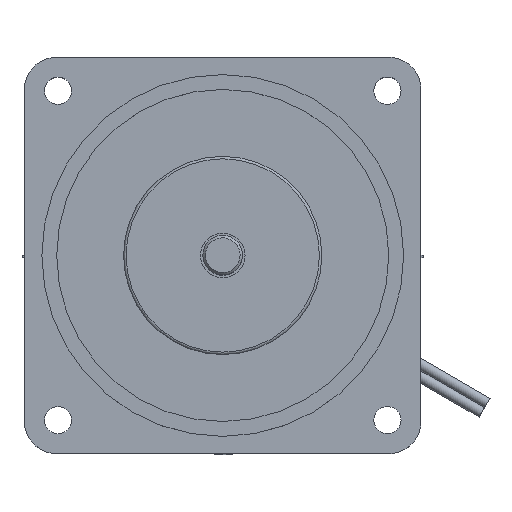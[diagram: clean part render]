
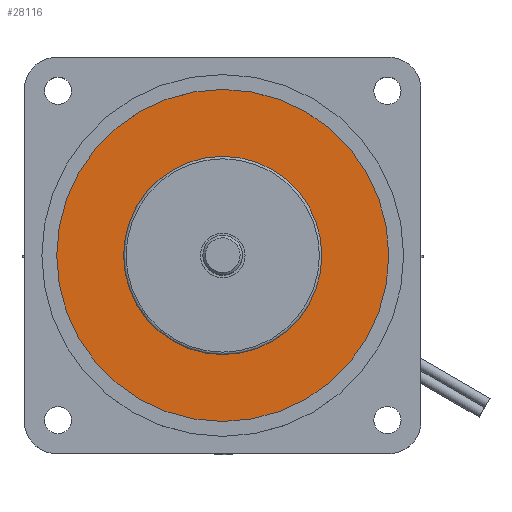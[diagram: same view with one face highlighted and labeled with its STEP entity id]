
A CAD part, top view. The second image highlights one B-rep face of the part: STEP entity #28116.
In plain terms, the highlighted planar face has unit normal (0, 0, 1).
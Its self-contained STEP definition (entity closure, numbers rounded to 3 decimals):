
#27791=CARTESIAN_POINT('',(20.0,0.,5.5));
#27792=VERTEX_POINT('',#27791);
#27793=CARTESIAN_POINT('',(0.0,0.0,5.5));
#27794=DIRECTION('',(0.0,0.0,1.0));
#27795=DIRECTION('',(-1.0,0.0,0.0));
#27796=AXIS2_PLACEMENT_3D('',#27793,#27794,#27795);
#27797=CIRCLE('',#27796,20.0);
#27798=EDGE_CURVE('',#27792,#27792,#27797,.T.);
#28082=CARTESIAN_POINT('',(33.5,0.,5.5));
#28083=VERTEX_POINT('',#28082);
#28084=CARTESIAN_POINT('',(0.0,0.0,5.5));
#28085=DIRECTION('',(0.0,0.0,1.0));
#28086=DIRECTION('',(-1.0,0.0,0.0));
#28087=AXIS2_PLACEMENT_3D('',#28084,#28085,#28086);
#28088=CIRCLE('',#28087,33.5);
#28089=EDGE_CURVE('',#28083,#28083,#28088,.T.);
#28105=CARTESIAN_POINT('',(0.0,0.0,5.5));
#28106=DIRECTION('',(0.0,0.0,-1.0));
#28107=DIRECTION('',(-1.0,0.0,0.0));
#28108=AXIS2_PLACEMENT_3D('',#28105,#28106,#28107);
#28109=PLANE('',#28108);
#28110=ORIENTED_EDGE('',*,*,#28089,.T.);
#28111=EDGE_LOOP('',(#28110));
#28112=FACE_OUTER_BOUND('',#28111,.T.);
#28113=ORIENTED_EDGE('',*,*,#27798,.F.);
#28114=EDGE_LOOP('',(#28113));
#28115=FACE_BOUND('',#28114,.T.);
#28116=ADVANCED_FACE('',(#28112,#28115),#28109,.F.);
